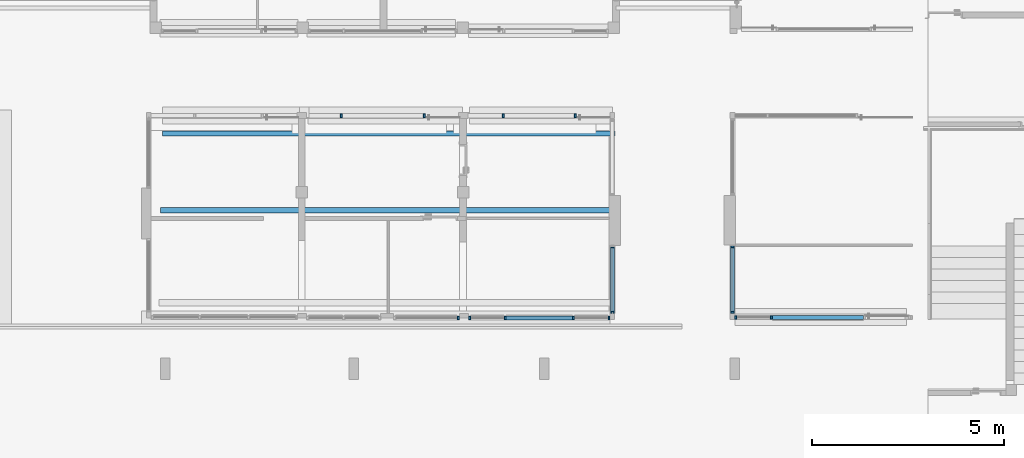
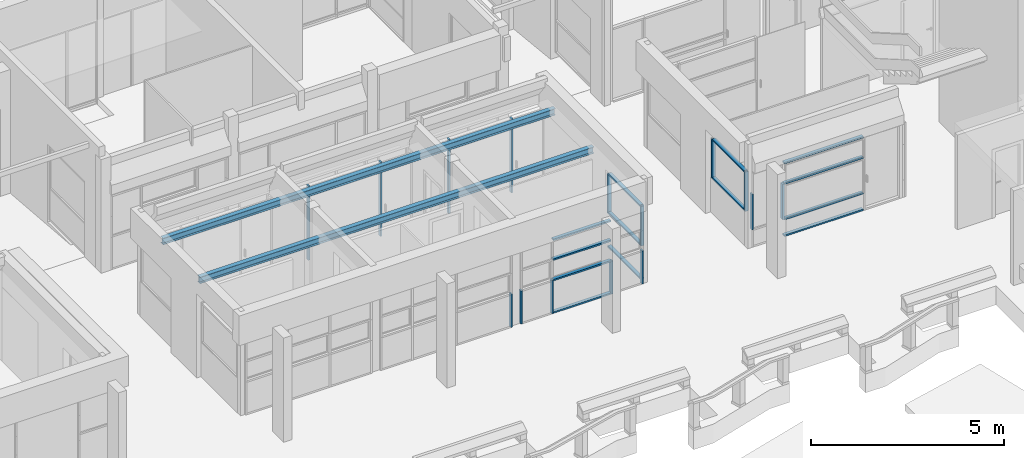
# One storey, part 11 of 117: 28 members, 2 beams, 7 elements without a shape of their own.
"""IFC4 building model written with IfcOpenShell, lengths in metres."""

from ifc_helpers import new_model, entity, si_unit, converted_unit, derived_unit, direction, frame, origin, place, context, subcontext, project, spatial, line, arc, indexed_curve, outline, extrude, source, transform, mapped, material, type_object, type_shapes, element, aggregate, save


model = new_model("IFC4")

# Units and contexts
model_context = context("Model", 3, precision=1e-05, world=origin(), true_north=direction((6.123031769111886e-17, 1.0)))
body_context = subcontext(model_context, "Body", "Model", "MODEL_VIEW")
ifc_project = project(units=[si_unit("LENGTHUNIT", "METRE"), si_unit("AREAUNIT", "SQUARE_METRE"), si_unit("VOLUMEUNIT", "CUBIC_METRE"), converted_unit("PLANEANGLEUNIT", "DEGREE", entity("IfcRatioMeasure", 0.017453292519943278), si_unit("PLANEANGLEUNIT", "RADIAN"), dimensions=[0, 0, 0, 0, 0, 0, 0]), si_unit("MASSUNIT", "GRAM", prefix="KILO"), derived_unit("MASSDENSITYUNIT", [(si_unit("MASSUNIT", "GRAM", prefix="KILO"), 1), (si_unit("LENGTHUNIT", "METRE"), -3)]), derived_unit("MOMENTOFINERTIAUNIT", [(si_unit("LENGTHUNIT", "METRE"), 4)]), si_unit("TIMEUNIT", "SECOND"), si_unit("FREQUENCYUNIT", "HERTZ"), si_unit("THERMODYNAMICTEMPERATUREUNIT", "DEGREE_CELSIUS"), derived_unit("THERMALTRANSMITTANCEUNIT", [(si_unit("MASSUNIT", "GRAM", prefix="KILO"), 1), (si_unit("THERMODYNAMICTEMPERATUREUNIT", "KELVIN"), -1), (si_unit("TIMEUNIT", "SECOND"), -3)]), derived_unit("VOLUMETRICFLOWRATEUNIT", [(si_unit("LENGTHUNIT", "METRE"), 3), (si_unit("TIMEUNIT", "SECOND"), -1)]), derived_unit("MASSFLOWRATEUNIT", [(si_unit("MASSUNIT", "GRAM", prefix="KILO"), 1), (si_unit("TIMEUNIT", "SECOND"), -1)]), derived_unit("ROTATIONALFREQUENCYUNIT", [(si_unit("TIMEUNIT", "SECOND"), -1)]), si_unit("ELECTRICCURRENTUNIT", "AMPERE"), si_unit("ELECTRICVOLTAGEUNIT", "VOLT"), si_unit("POWERUNIT", "WATT"), si_unit("FORCEUNIT", "NEWTON", prefix="KILO"), si_unit("ILLUMINANCEUNIT", "LUX"), si_unit("LUMINOUSFLUXUNIT", "LUMEN"), si_unit("LUMINOUSINTENSITYUNIT", "CANDELA"), derived_unit("USERDEFINED", [(si_unit("MASSUNIT", "GRAM", prefix="KILO"), -1), (si_unit("LENGTHUNIT", "METRE"), -2), (si_unit("TIMEUNIT", "SECOND"), 3), (si_unit("LUMINOUSFLUXUNIT", "LUMEN"), 1)]), derived_unit("SOUNDPOWERUNIT", [(si_unit("MASSUNIT", "GRAM", prefix="KILO"), 1), (si_unit("LENGTHUNIT", "METRE"), 2), (si_unit("TIMEUNIT", "SECOND"), -3)]), derived_unit("SOUNDPRESSUREUNIT", [(si_unit("MASSUNIT", "GRAM", prefix="KILO"), 1), (si_unit("LENGTHUNIT", "METRE"), -1), (si_unit("TIMEUNIT", "SECOND"), -2)]), derived_unit("LINEARVELOCITYUNIT", [(si_unit("LENGTHUNIT", "METRE"), 1), (si_unit("TIMEUNIT", "SECOND"), -1)]), si_unit("PRESSUREUNIT", "PASCAL"), derived_unit("USERDEFINED", [(si_unit("LENGTHUNIT", "METRE"), -2), (si_unit("MASSUNIT", "GRAM", prefix="KILO"), 1), (si_unit("TIMEUNIT", "SECOND"), -2)]), derived_unit("LINEARFORCEUNIT", [(si_unit("MASSUNIT", "GRAM", prefix="KILO"), 1), (si_unit("LENGTHUNIT", "METRE"), 1), (si_unit("TIMEUNIT", "SECOND"), -2), (si_unit("LENGTHUNIT", "METRE"), -1)]), derived_unit("PLANARFORCEUNIT", [(si_unit("MASSUNIT", "GRAM", prefix="KILO"), 1), (si_unit("LENGTHUNIT", "METRE"), 1), (si_unit("TIMEUNIT", "SECOND"), -2), (si_unit("LENGTHUNIT", "METRE"), -2)])], contexts=[model_context])

# Site, building, storey
site_placement = place(None, origin())
site = spatial("IfcSite", under=ifc_project, at=site_placement, Name="Superficie", CompositionType="ELEMENT")
building_placement = place(site_placement, origin())
building = spatial("IfcBuilding", under=site, at=building_placement, CompositionType="ELEMENT")
storey_placement = place(building_placement, origin())
storey = spatial("IfcBuildingStorey", under=building, at=storey_placement, Name="Nivel 0", CompositionType="ELEMENT", Elevation=0.0)

# Curtain wall, members
curtain_wall_type = type_object("IfcCurtainWallType", Name="Muro cortina:Muro cortina - simple", PredefinedType="NOTDEFINED")
curtain_wall_1_placement = place(storey_placement, origin())
curtain_wall_1 = element("IfcCurtainWall", 1, at=curtain_wall_1_placement, inside=storey, type_object=curtain_wall_type, Name="Muro cortina:Muro cortina - simple", ObjectType="Muro cortina:Muro cortina - simple", PredefinedType="NOTDEFINED")
ifc_material_1 = material(Name="<Unnamed>")
member_type_1 = type_object("IfcMemberType", Name="Montante rectangular:Montante rectangular - 5 x 10 cm", PredefinedType="MULLION", material=ifc_material_1)
shared_shape_1 = source(origin(), body_context, "Body", "SweptSolid", [
    extrude(outline(indexed_curve([(-0.05, -0.025), (0.05, -0.025), (0.05, 0.025), (-0.05, 0.025), (-0.05, -0.025)], self_intersect=False)), frame((0.0, 0.0, -1.2499999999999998), z_axis=(0.0, 0.0, 1.0), x_axis=(0.0, -1.0, 0.0)), (0.0, 0.0, 1.0), 1.2499999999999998),
])
type_shapes(member_type_1, [shared_shape_1])
member_1_placement = place(curtain_wall_1_placement, frame((12.786799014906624, 0.11582928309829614, 1.0750000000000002), z_axis=(0.0, 0.0, -1.0), x_axis=(0.0, -1.0, 0.0)))
member_1 = element("IfcMember", 2, at=member_1_placement, type_object=member_type_1, material=ifc_material_1, Name="Montante rectangular:Montante rectangular - 5 x 10 cm", ObjectType="Montante rectangular:Montante rectangular - 5 x 10 cm", PredefinedType="MULLION", context=body_context, shape_type="MappedRepresentation", body=[
    mapped(shared_shape_1, transform((0.0, 0.0, 0.0), scale=1.0)),
])
member_2_placement = place(curtain_wall_1_placement, frame((12.786799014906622, -1.5891707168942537, 1.0750000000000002), z_axis=(0.0, 0.0, -1.0), x_axis=(0.0, -1.0, 0.0)))
member_2 = element("IfcMember", 3, at=member_2_placement, type_object=member_type_1, material=ifc_material_1, Name="Montante rectangular:Montante rectangular - 5 x 10 cm", ObjectType="Montante rectangular:Montante rectangular - 5 x 10 cm", PredefinedType="MULLION", context=body_context, shape_type="MappedRepresentation", body=[
    mapped(shared_shape_1, transform((0.0, 0.0, 0.0), scale=1.0)),
])

curtain_wall_2_placement = place(storey_placement, origin())
curtain_wall_2 = element("IfcCurtainWall", 4, at=curtain_wall_2_placement, inside=storey, type_object=curtain_wall_type, Name="Muro cortina:Muro cortina - simple", ObjectType="Muro cortina:Muro cortina - simple", PredefinedType="NOTDEFINED")
member_3_placement = place(curtain_wall_2_placement, frame((15.906799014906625, 0.11582928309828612, 1.0750000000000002), z_axis=(0.0, 0.0, -1.0), x_axis=(0.0, -1.0, 0.0)))
member_3 = element("IfcMember", 5, at=member_3_placement, type_object=member_type_1, material=ifc_material_1, Name="Montante rectangular:Montante rectangular - 5 x 10 cm", ObjectType="Montante rectangular:Montante rectangular - 5 x 10 cm", PredefinedType="MULLION", context=body_context, shape_type="MappedRepresentation", body=[
    mapped(shared_shape_1, transform((0.0, 0.0, 0.0), scale=1.0)),
])
member_4_placement = place(curtain_wall_2_placement, frame((15.906799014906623, -1.5891707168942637, 1.0750000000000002), z_axis=(0.0, 0.0, -1.0), x_axis=(0.0, -1.0, 0.0)))
member_4 = element("IfcMember", 6, at=member_4_placement, type_object=member_type_1, material=ifc_material_1, Name="Montante rectangular:Montante rectangular - 5 x 10 cm", ObjectType="Montante rectangular:Montante rectangular - 5 x 10 cm", PredefinedType="MULLION", context=body_context, shape_type="MappedRepresentation", body=[
    mapped(shared_shape_1, transform((0.0, 0.0, 0.0), scale=1.0)),
])

# Member
member_type_2 = type_object("IfcMemberType", Name="Montante rectangular:Montante rectangular - 5 x 10 cm", PredefinedType="MULLION", material=ifc_material_1)
shared_shape_2 = source(origin(), body_context, "Body", "SweptSolid", [
    extrude(outline(indexed_curve([(-0.05, -0.025), (0.05, -0.025), (0.05, 0.025), (-0.05, 0.025), (-0.05, -0.025)], self_intersect=False)), frame((0.0, 0.0, -1.65499999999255), z_axis=(0.0, 0.0, 1.0), x_axis=(0.0, -1.0, 0.0)), (0.0, 0.0, 1.0), 1.65499999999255),
])
type_shapes(member_type_2, [shared_shape_2])
member_5_placement = place(curtain_wall_1_placement, frame((12.786799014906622, -1.5641707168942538, 1.1), z_axis=(0.0, -1.0, 0.0), x_axis=(0.0, 0.0, 1.0)))
member_5 = element("IfcMember", 7, at=member_5_placement, type_object=member_type_2, material=ifc_material_1, Name="Montante rectangular:Montante rectangular - 5 x 10 cm", ObjectType="Montante rectangular:Montante rectangular - 5 x 10 cm", PredefinedType="MULLION", context=body_context, shape_type="MappedRepresentation", body=[
    mapped(shared_shape_2, transform((0.0, 0.0, 0.0), scale=1.0)),
])

member_6_placement = place(curtain_wall_1_placement, frame((12.786799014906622, -1.5641707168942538, 2.3249999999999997), z_axis=(0.0, -1.0, 0.0), x_axis=(0.0, 0.0, 1.0)))
member_6 = element("IfcMember", 8, at=member_6_placement, type_object=member_type_2, material=ifc_material_1, Name="Montante rectangular:Montante rectangular - 5 x 10 cm", ObjectType="Montante rectangular:Montante rectangular - 5 x 10 cm", PredefinedType="MULLION", context=body_context, shape_type="MappedRepresentation", body=[
    mapped(shared_shape_2, transform((0.0, 0.0, 0.0), scale=1.0)),
])

member_7_placement = place(curtain_wall_2_placement, frame((15.906799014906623, -1.5641707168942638, 1.1), z_axis=(0.0, -1.0, 0.0), x_axis=(0.0, 0.0, 1.0)))
member_7 = element("IfcMember", 9, at=member_7_placement, type_object=member_type_2, material=ifc_material_1, Name="Montante rectangular:Montante rectangular - 5 x 10 cm", ObjectType="Montante rectangular:Montante rectangular - 5 x 10 cm", PredefinedType="MULLION", context=body_context, shape_type="MappedRepresentation", body=[
    mapped(shared_shape_2, transform((0.0, 0.0, 0.0), scale=1.0)),
])

member_8_placement = place(curtain_wall_2_placement, frame((15.906799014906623, -1.5641707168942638, 2.3249999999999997), z_axis=(0.0, -1.0, 0.0), x_axis=(0.0, 0.0, 1.0)))
member_8 = element("IfcMember", 10, at=member_8_placement, type_object=member_type_2, material=ifc_material_1, Name="Montante rectangular:Montante rectangular - 5 x 10 cm", ObjectType="Montante rectangular:Montante rectangular - 5 x 10 cm", PredefinedType="MULLION", context=body_context, shape_type="MappedRepresentation", body=[
    mapped(shared_shape_2, transform((0.0, 0.0, 0.0), scale=1.0)),
])

aggregate(curtain_wall_2, [member_3, member_7, member_4, member_8])

member_type_3 = type_object("IfcMemberType", Name="Montante rectangular:Montante rectangular - 5 x 10 cm", PredefinedType="MULLION", material=ifc_material_1)
shared_shape_3 = source(origin(), body_context, "Body", "SweptSolid", [
    extrude(outline(indexed_curve([(-0.05, -0.025), (0.05, -0.025), (0.05, 0.025), (-0.05, 0.025), (-0.05, -0.025)], self_intersect=False)), frame((-0.025, 0.0, -1.70499999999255), z_axis=(0.0, 0.0, 1.0), x_axis=(0.0, -1.0, 0.0)), (0.0, 0.0, 1.0), 1.70499999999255),
])
type_shapes(member_type_3, [shared_shape_3])
member_9_placement = place(curtain_wall_1_placement, frame((12.786799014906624, 0.1158292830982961, 0.0), z_axis=(0.0, 1.0, 0.0), x_axis=(0.0, 0.0, -1.0)))
member_9 = element("IfcMember", 11, at=member_9_placement, type_object=member_type_3, material=ifc_material_1, Name="Montante rectangular:Montante rectangular - 5 x 10 cm", ObjectType="Montante rectangular:Montante rectangular - 5 x 10 cm", PredefinedType="MULLION", context=body_context, shape_type="MappedRepresentation", body=[
    mapped(shared_shape_3, transform((0.0, 0.0, 0.0), scale=1.0)),
])

aggregate(curtain_wall_1, [member_1, member_5, member_2, member_6, member_9])

# Curtain wall, members
curtain_wall_3_placement = place(storey_placement, origin())
curtain_wall_3 = element("IfcCurtainWall", 12, at=curtain_wall_3_placement, inside=storey, type_object=curtain_wall_type, Name="Muro cortina:Muro cortina - simple", ObjectType="Muro cortina:Muro cortina - simple", PredefinedType="NOTDEFINED")
member_type_4 = type_object("IfcMemberType", Name="Montante rectangular:Montante rectangular - 5 x 10 cm", PredefinedType="MULLION", material=ifc_material_1)
shared_shape_4 = source(origin(), body_context, "Body", "SweptSolid", [
    extrude(outline(indexed_curve([(-0.05, -0.025), (0.05, -0.025), (0.05, 0.025), (-0.05, 0.025), (-0.05, -0.025)], self_intersect=False)), frame((0.0, 0.0, -2.35), z_axis=(0.0, 0.0, 1.0), x_axis=(0.0, -1.0, 0.0)), (0.0, 0.0, 1.0), 2.35),
])
type_shapes(member_type_4, [shared_shape_4])
member_10_placement = place(curtain_wall_3_placement, frame((11.821799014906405, 3.5257137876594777, 0.0), z_axis=(0.0, 0.0, -1.0), x_axis=(-1.0, 0.0, 0.0)))
member_10 = element("IfcMember", 13, at=member_10_placement, type_object=member_type_4, material=ifc_material_1, Name="Montante rectangular:Montante rectangular - 5 x 10 cm", ObjectType="Montante rectangular:Montante rectangular - 5 x 10 cm", PredefinedType="MULLION", context=body_context, shape_type="MappedRepresentation", body=[
    mapped(shared_shape_4, transform((0.0, 0.0, 0.0), scale=1.0)),
])
member_11_placement = place(curtain_wall_3_placement, frame((9.94179901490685, 3.5257137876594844, 0.0), z_axis=(0.0, 0.0, -1.0), x_axis=(-1.0, 0.0, 0.0)))
member_11 = element("IfcMember", 14, at=member_11_placement, type_object=member_type_4, material=ifc_material_1, Name="Montante rectangular:Montante rectangular - 5 x 10 cm", ObjectType="Montante rectangular:Montante rectangular - 5 x 10 cm", PredefinedType="MULLION", context=body_context, shape_type="MappedRepresentation", body=[
    mapped(shared_shape_4, transform((0.0, 0.0, 0.0), scale=1.0)),
])
aggregate(curtain_wall_3, [member_10, member_11])

curtain_wall_4_placement = place(storey_placement, origin())
curtain_wall_4 = element("IfcCurtainWall", 15, at=curtain_wall_4_placement, inside=storey, type_object=curtain_wall_type, Name="Muro cortina:Muro cortina - simple", ObjectType="Muro cortina:Muro cortina - simple", PredefinedType="NOTDEFINED")
member_12_placement = place(curtain_wall_4_placement, frame((7.891799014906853, 3.5257137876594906, 0.0), z_axis=(0.0, 0.0, -1.0), x_axis=(-1.0, 0.0, 0.0)))
member_12 = element("IfcMember", 16, at=member_12_placement, type_object=member_type_4, material=ifc_material_1, Name="Montante rectangular:Montante rectangular - 5 x 10 cm", ObjectType="Montante rectangular:Montante rectangular - 5 x 10 cm", PredefinedType="MULLION", context=body_context, shape_type="MappedRepresentation", body=[
    mapped(shared_shape_4, transform((0.0, 0.0, 0.0), scale=1.0)),
])
member_13_placement = place(curtain_wall_4_placement, frame((5.731799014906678, 3.5257137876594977, 0.0), z_axis=(0.0, 0.0, -1.0), x_axis=(-1.0, 0.0, 0.0)))
member_13 = element("IfcMember", 17, at=member_13_placement, type_object=member_type_4, material=ifc_material_1, Name="Montante rectangular:Montante rectangular - 5 x 10 cm", ObjectType="Montante rectangular:Montante rectangular - 5 x 10 cm", PredefinedType="MULLION", context=body_context, shape_type="MappedRepresentation", body=[
    mapped(shared_shape_4, transform((0.0, 0.0, 0.0), scale=1.0)),
])
aggregate(curtain_wall_4, [member_12, member_13])

# Beams
ifc_material_2 = material(Name="Metal - Acero - 345 MPa", Category="Metal")
beam_type_1 = type_object("IfcBeamType", Name="UB-Perfil universal:203x133x25UB", PredefinedType="BEAM", material=ifc_material_2)
shared_shape_5 = source(origin(), body_context, "Body", "SweptSolid", [
    extrude(outline(indexed_curve([(-0.10159999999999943, -0.06660000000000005), (-0.09380000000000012, -0.06660000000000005), (-0.09380000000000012, -0.010449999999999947), (-0.09157401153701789, -0.005075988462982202), (-0.08620000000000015, -0.002849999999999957), (0.08619999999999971, -0.0028499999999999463), (0.09157401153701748, -0.00507598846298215), (0.09379999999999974, -0.010449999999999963), (0.09379999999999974, -0.06660000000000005), (0.10160000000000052, -0.06660000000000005), (0.10160000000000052, 0.06660000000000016), (0.09379999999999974, 0.06660000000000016), (0.09379999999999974, 0.010450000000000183), (0.09157401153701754, 0.005075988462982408), (0.08619999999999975, 0.0028500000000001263), (-0.08620000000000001, 0.0028500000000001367), (-0.09157401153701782, 0.005075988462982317), (-0.09380000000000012, 0.010450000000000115), (-0.09380000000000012, 0.0665999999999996), (-0.10159999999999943, 0.0665999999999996)], segments=[line(1, 2, 3), arc(3, 4, 5), line(5, 6), arc(6, 7, 8), line(8, 9, 10, 11, 12, 13), arc(13, 14, 15), line(15, 16), arc(16, 17, 18), line(18, 19, 20, 1)], self_intersect=False)), frame((-5.88, 0.0, 0.0), z_axis=(1.0, 0.0, 0.0), x_axis=(0.0, 0.0, -1.0)), (0.0, 0.0, 1.0), 11.760000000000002),
])
type_shapes(beam_type_1, [shared_shape_5])
beam_1_placement = place(storey_placement, frame((6.966001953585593, 3.0657137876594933, 2.4984)))
element("IfcBeam", 18, at=beam_1_placement, inside=storey, type_object=beam_type_1, material=ifc_material_2, Name="UB-Perfil universal:203x133x25UB", ObjectType="UB-Perfil universal:203x133x25UB", PredefinedType="BEAM", context=body_context, shape_type="MappedRepresentation", body=[
    mapped(shared_shape_5, transform((0.0, 0.0, 0.0), scale=1.0)),
])
beam_type_2 = type_object("IfcBeamType", Name="UB-Perfil universal:203x133x25UB", PredefinedType="BEAM", material=ifc_material_2)
shared_shape_6 = source(origin(), body_context, "Body", "SweptSolid", [
    extrude(outline(indexed_curve([(-0.10159999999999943, -0.06660000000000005), (-0.09380000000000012, -0.06660000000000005), (-0.09380000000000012, -0.010449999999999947), (-0.09157401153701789, -0.005075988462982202), (-0.08620000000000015, -0.002849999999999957), (0.08619999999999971, -0.0028499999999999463), (0.09157401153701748, -0.00507598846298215), (0.09379999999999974, -0.010449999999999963), (0.09379999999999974, -0.06660000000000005), (0.10160000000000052, -0.06660000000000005), (0.10160000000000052, 0.06660000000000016), (0.09379999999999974, 0.06660000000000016), (0.09379999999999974, 0.010450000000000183), (0.09157401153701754, 0.005075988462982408), (0.08619999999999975, 0.0028500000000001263), (-0.08620000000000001, 0.0028500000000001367), (-0.09157401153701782, 0.005075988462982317), (-0.09380000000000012, 0.010450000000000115), (-0.09380000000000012, 0.0665999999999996), (-0.10159999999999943, 0.0665999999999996)], segments=[line(1, 2, 3), arc(3, 4, 5), line(5, 6), arc(6, 7, 8), line(8, 9, 10, 11, 12, 13), arc(13, 14, 15), line(15, 16), arc(16, 17, 18), line(18, 19, 20, 1)], self_intersect=False)), frame((-5.929132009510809, 0.0, 0.0), z_axis=(1.0, 0.0, 0.0), x_axis=(0.0, 0.0, -1.0)), (0.0, 0.0, 1.0), 11.809132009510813),
])
type_shapes(beam_type_2, [shared_shape_6])
beam_2_placement = place(storey_placement, frame((6.9660019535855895, 1.0657137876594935, 2.4984)))
element("IfcBeam", 19, at=beam_2_placement, inside=storey, type_object=beam_type_2, material=ifc_material_2, Name="UB-Perfil universal:203x133x25UB", ObjectType="UB-Perfil universal:203x133x25UB", PredefinedType="BEAM", context=body_context, shape_type="MappedRepresentation", body=[
    mapped(shared_shape_6, transform((0.0, 0.0, 0.0), scale=1.0)),
])

# Curtain wall, members
curtain_wall_5_placement = place(storey_placement, origin())
curtain_wall_5 = element("IfcCurtainWall", 20, at=curtain_wall_5_placement, inside=storey, type_object=curtain_wall_type, Name="Muro cortina:Muro cortina - simple", ObjectType="Muro cortina:Muro cortina - simple", PredefinedType="NOTDEFINED")
member_type_5 = type_object("IfcMemberType", Name="Montante rectangular:Montante rectangular - 5 x 10 cm", PredefinedType="MULLION", material=ifc_material_1)
shared_shape_7 = source(origin(), body_context, "Body", "SweptSolid", [
    extrude(outline(indexed_curve([(-0.05, -0.025), (0.05, -0.025), (0.05, 0.025), (-0.05, 0.025), (-0.05, -0.025)], self_intersect=False)), frame((-0.025, 0.0, -1.125), z_axis=(0.0, 0.0, 1.0), x_axis=(0.0, -1.0, 0.0)), (0.0, 0.0, 1.0), 1.125),
])
type_shapes(member_type_5, [shared_shape_7])
member_14_placement = place(curtain_wall_5_placement, frame((15.966799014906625, -1.7241707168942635, 0.55), z_axis=(0.0, 0.0, -1.0), x_axis=(-1.0, 0.0, 0.0)))
member_14 = element("IfcMember", 21, at=member_14_placement, type_object=member_type_5, material=ifc_material_1, Name="Montante rectangular:Montante rectangular - 5 x 10 cm", ObjectType="Montante rectangular:Montante rectangular - 5 x 10 cm", PredefinedType="MULLION", context=body_context, shape_type="MappedRepresentation", body=[
    mapped(shared_shape_7, transform((0.0, 0.0, 0.0), scale=1.0)),
])
member_type_6 = type_object("IfcMemberType", Name="Montante rectangular:Montante rectangular - 5 x 10 cm", PredefinedType="MULLION", material=ifc_material_1)
shared_shape_8 = source(origin(), body_context, "Body", "SweptSolid", [
    extrude(outline(indexed_curve([(-0.05, -0.025), (0.05, -0.025), (0.05, 0.025), (-0.05, 0.025), (-0.05, -0.025)], self_intersect=False)), frame((0.0, 0.0, -1.125), z_axis=(0.0, 0.0, 1.0), x_axis=(0.0, -1.0, 0.0)), (0.0, 0.0, 1.0), 1.125),
])
type_shapes(member_type_6, [shared_shape_8])
member_15_placement = place(curtain_wall_5_placement, frame((16.916799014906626, -1.7241707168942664, 0.55), z_axis=(0.0, 0.0, -1.0), x_axis=(-1.0, 0.0, 0.0)))
member_15 = element("IfcMember", 22, at=member_15_placement, type_object=member_type_6, material=ifc_material_1, Name="Montante rectangular:Montante rectangular - 5 x 10 cm", ObjectType="Montante rectangular:Montante rectangular - 5 x 10 cm", PredefinedType="MULLION", context=body_context, shape_type="MappedRepresentation", body=[
    mapped(shared_shape_8, transform((0.0, 0.0, 0.0), scale=1.0)),
])
member_type_7 = type_object("IfcMemberType", Name="Montante rectangular:Montante rectangular - 5 x 10 cm", PredefinedType="MULLION", material=ifc_material_1)
shared_shape_9 = source(origin(), body_context, "Body", "SweptSolid", [
    extrude(outline(indexed_curve([(-0.05, -0.025), (0.05, -0.025), (0.05, 0.025), (-0.05, 0.025), (-0.05, -0.025)], self_intersect=False)), frame((0.0, 0.0, -2.370000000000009), z_axis=(0.0, 0.0, 1.0), x_axis=(0.0, -1.0, 0.0)), (0.0, 0.0, 1.0), 2.3700000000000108),
])
type_shapes(member_type_7, [shared_shape_9])
member_16_placement = place(curtain_wall_5_placement, frame((16.941799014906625, -1.7241707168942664, 0.55), z_axis=(-1.0, 0.0, 0.0), x_axis=(0.0, 0.0, 1.0)))
member_16 = element("IfcMember", 23, at=member_16_placement, type_object=member_type_7, material=ifc_material_1, Name="Montante rectangular:Montante rectangular - 5 x 10 cm", ObjectType="Montante rectangular:Montante rectangular - 5 x 10 cm", PredefinedType="MULLION", context=body_context, shape_type="MappedRepresentation", body=[
    mapped(shared_shape_9, transform((0.0, 0.0, 0.0), scale=1.0)),
])
member_17_placement = place(curtain_wall_5_placement, frame((16.941799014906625, -1.7241707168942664, 1.675), z_axis=(-1.0, 0.0, 0.0), x_axis=(0.0, 0.0, 1.0)))
member_17 = element("IfcMember", 24, at=member_17_placement, type_object=member_type_7, material=ifc_material_1, Name="Montante rectangular:Montante rectangular - 5 x 10 cm", ObjectType="Montante rectangular:Montante rectangular - 5 x 10 cm", PredefinedType="MULLION", context=body_context, shape_type="MappedRepresentation", body=[
    mapped(shared_shape_9, transform((0.0, 0.0, 0.0), scale=1.0)),
])
member_type_8 = type_object("IfcMemberType", Name="Montante rectangular:Montante rectangular - 5 x 10 cm", PredefinedType="MULLION", material=ifc_material_1)
shared_shape_10 = source(origin(), body_context, "Body", "SweptSolid", [
    extrude(outline(indexed_curve([(-0.05, -0.025), (0.05, -0.025), (0.05, 0.025), (-0.05, 0.025), (-0.05, -0.025)], self_intersect=False)), frame((-0.025, 0.0, -2.370000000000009), z_axis=(0.0, 0.0, 1.0), x_axis=(0.0, -1.0, 0.0)), (0.0, 0.0, 1.0), 2.3700000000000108),
])
type_shapes(member_type_8, [shared_shape_10])
member_18_placement = place(curtain_wall_5_placement, frame((16.941799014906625, -1.7241707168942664, 2.35), z_axis=(-1.0, 0.0, 0.0), x_axis=(0.0, 0.0, 1.0)))
member_18 = element("IfcMember", 25, at=member_18_placement, type_object=member_type_8, material=ifc_material_1, Name="Montante rectangular:Montante rectangular - 5 x 10 cm", ObjectType="Montante rectangular:Montante rectangular - 5 x 10 cm", PredefinedType="MULLION", context=body_context, shape_type="MappedRepresentation", body=[
    mapped(shared_shape_10, transform((0.0, 0.0, 0.0), scale=1.0)),
])
member_type_9 = type_object("IfcMemberType", Name="Montante rectangular:Montante rectangular - 5 x 10 cm", PredefinedType="MULLION", material=ifc_material_1)
shared_shape_11 = source(origin(), body_context, "Body", "SweptSolid", [
    extrude(outline(indexed_curve([(-0.05, -0.025), (0.05, -0.025), (0.05, 0.025), (-0.05, 0.025), (-0.05, -0.025)], self_intersect=False)), frame((-0.025, 0.0, -2.3700000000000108), z_axis=(0.0, 0.0, 1.0), x_axis=(0.0, -1.0, 0.0)), (0.0, 0.0, 1.0), 2.3700000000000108),
])
type_shapes(member_type_9, [shared_shape_11])
member_19_placement = place(curtain_wall_5_placement, frame((19.311799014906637, -1.7241707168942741, 0.0), z_axis=(1.0, 0.0, 0.0), x_axis=(0.0, 0.0, -1.0)))
member_19 = element("IfcMember", 26, at=member_19_placement, type_object=member_type_9, material=ifc_material_1, Name="Montante rectangular:Montante rectangular - 5 x 10 cm", ObjectType="Montante rectangular:Montante rectangular - 5 x 10 cm", PredefinedType="MULLION", context=body_context, shape_type="MappedRepresentation", body=[
    mapped(shared_shape_11, transform((0.0, 0.0, 0.0), scale=1.0)),
])
aggregate(curtain_wall_5, [member_14, member_15, member_16, member_18, member_19, member_17])

# Curtain wall, member
curtain_wall_6_placement = place(storey_placement, origin())
curtain_wall_6 = element("IfcCurtainWall", 27, at=curtain_wall_6_placement, inside=storey, type_object=curtain_wall_type, Name="Muro cortina:Muro cortina - simple", ObjectType="Muro cortina:Muro cortina - simple", PredefinedType="NOTDEFINED")
member_type_10 = type_object("IfcMemberType", Name="Montante rectangular:Montante rectangular - 5 x 10 cm", PredefinedType="MULLION", material=ifc_material_1)
shared_shape_12 = source(origin(), body_context, "Body", "SweptSolid", [
    extrude(outline(indexed_curve([(-0.05, -0.025), (0.05, -0.025), (0.05, 0.025), (-0.05, 0.025), (-0.05, -0.025)], self_intersect=False)), frame((-0.025, 0.0, -1.0499999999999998), z_axis=(0.0, 0.0, 1.0), x_axis=(0.0, -1.0, 0.0)), (0.0, 0.0, 1.0), 1.0499999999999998),
])
type_shapes(member_type_10, [shared_shape_12])
member_20_placement = place(curtain_wall_6_placement, frame((8.796799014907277, -1.7341707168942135, 0.0), z_axis=(0.0, 0.0, -1.0), x_axis=(1.0, 0.0, 0.0)))
member_20 = element("IfcMember", 28, at=member_20_placement, type_object=member_type_10, material=ifc_material_1, Name="Montante rectangular:Montante rectangular - 5 x 10 cm", ObjectType="Montante rectangular:Montante rectangular - 5 x 10 cm", PredefinedType="MULLION", context=body_context, shape_type="MappedRepresentation", body=[
    mapped(shared_shape_12, transform((0.0, 0.0, 0.0), scale=1.0)),
])
aggregate(curtain_wall_6, [member_20])

# Curtain wall, members
curtain_wall_7_placement = place(storey_placement, origin())
curtain_wall_7 = element("IfcCurtainWall", 29, at=curtain_wall_7_placement, inside=storey, type_object=curtain_wall_type, Name="Muro cortina:Muro cortina - simple", ObjectType="Muro cortina:Muro cortina - simple", PredefinedType="NOTDEFINED")
member_21_placement = place(curtain_wall_7_placement, frame((12.721799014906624, -1.7341707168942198, 0.0), z_axis=(0.0, 0.0, -1.0), x_axis=(1.0, 0.0, 0.0)))
member_21 = element("IfcMember", 30, at=member_21_placement, type_object=member_type_10, material=ifc_material_1, Name="Montante rectangular:Montante rectangular - 5 x 10 cm", ObjectType="Montante rectangular:Montante rectangular - 5 x 10 cm", PredefinedType="MULLION", context=body_context, shape_type="MappedRepresentation", body=[
    mapped(shared_shape_12, transform((0.0, 0.0, 0.0), scale=1.0)),
])
member_type_11 = type_object("IfcMemberType", Name="Montante rectangular:Montante rectangular - 5 x 10 cm", PredefinedType="MULLION", material=ifc_material_1)
shared_shape_13 = source(origin(), body_context, "Body", "SweptSolid", [
    extrude(outline(indexed_curve([(-0.05, -0.025), (0.05, -0.025), (0.05, 0.025), (-0.05, 0.025), (-0.05, -0.025)], self_intersect=False)), frame((-0.025, 0.0, -1.05), z_axis=(0.0, 0.0, 1.0), x_axis=(0.0, -1.0, 0.0)), (0.0, 0.0, 1.0), 1.05),
])
type_shapes(member_type_11, [shared_shape_13])
member_22_placement = place(curtain_wall_7_placement, frame((9.046799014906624, -1.7341707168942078, 1.05), z_axis=(0.0, 0.0, 1.0), x_axis=(-1.0, 0.0, 0.0)))
member_22 = element("IfcMember", 31, at=member_22_placement, type_object=member_type_11, material=ifc_material_1, Name="Montante rectangular:Montante rectangular - 5 x 10 cm", ObjectType="Montante rectangular:Montante rectangular - 5 x 10 cm", PredefinedType="MULLION", context=body_context, shape_type="MappedRepresentation", body=[
    mapped(shared_shape_13, transform((0.0, 0.0, 0.0), scale=1.0)),
])
member_type_12 = type_object("IfcMemberType", Name="Montante rectangular:Montante rectangular - 5 x 10 cm", PredefinedType="MULLION", material=ifc_material_1)
shared_shape_14 = source(origin(), body_context, "Body", "SweptSolid", [
    extrude(outline(indexed_curve([(-0.05, -0.025), (0.05, -0.025), (0.05, 0.025), (-0.05, 0.025), (-0.05, -0.025)], self_intersect=False)), frame((0.0, 0.0, -1.0499999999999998), z_axis=(0.0, 0.0, 1.0), x_axis=(0.0, -1.0, 0.0)), (0.0, 0.0, 1.0), 1.0499999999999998),
])
type_shapes(member_type_12, [shared_shape_14])
member_23_placement = place(curtain_wall_7_placement, frame((9.996799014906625, -1.7341707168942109, 0.0), z_axis=(0.0, 0.0, -1.0), x_axis=(1.0, 0.0, 0.0)))
member_23 = element("IfcMember", 32, at=member_23_placement, type_object=member_type_12, material=ifc_material_1, Name="Montante rectangular:Montante rectangular - 5 x 10 cm", ObjectType="Montante rectangular:Montante rectangular - 5 x 10 cm", PredefinedType="MULLION", context=body_context, shape_type="MappedRepresentation", body=[
    mapped(shared_shape_14, transform((0.0, 0.0, 0.0), scale=1.0)),
])
member_24_placement = place(curtain_wall_7_placement, frame((11.771799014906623, -1.7341707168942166, 0.0), z_axis=(0.0, 0.0, -1.0), x_axis=(1.0, 0.0, 0.0)))
member_24 = element("IfcMember", 33, at=member_24_placement, type_object=member_type_12, material=ifc_material_1, Name="Montante rectangular:Montante rectangular - 5 x 10 cm", ObjectType="Montante rectangular:Montante rectangular - 5 x 10 cm", PredefinedType="MULLION", context=body_context, shape_type="MappedRepresentation", body=[
    mapped(shared_shape_14, transform((0.0, 0.0, 0.0), scale=1.0)),
])
member_type_13 = type_object("IfcMemberType", Name="Montante rectangular:Montante rectangular - 5 x 10 cm", PredefinedType="MULLION", material=ifc_material_1)
shared_shape_15 = source(origin(), body_context, "Body", "SweptSolid", [
    extrude(outline(indexed_curve([(-0.05, -0.025), (0.05, -0.025), (0.05, 0.025), (-0.05, 0.025), (-0.05, -0.025)], self_intersect=False)), frame((-0.025, 0.0, -1.7249999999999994), z_axis=(0.0, 0.0, 1.0), x_axis=(0.0, -1.0, 0.0)), (0.0, 0.0, 1.0), 1.7249999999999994),
])
type_shapes(member_type_13, [shared_shape_15])
member_25_placement = place(curtain_wall_7_placement, frame((11.746799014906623, -1.7341707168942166, 2.3499999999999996), z_axis=(1.0, 0.0, 0.0), x_axis=(0.0, 0.0, 1.0)))
member_25 = element("IfcMember", 34, at=member_25_placement, type_object=member_type_13, material=ifc_material_1, Name="Montante rectangular:Montante rectangular - 5 x 10 cm", ObjectType="Montante rectangular:Montante rectangular - 5 x 10 cm", PredefinedType="MULLION", context=body_context, shape_type="MappedRepresentation", body=[
    mapped(shared_shape_15, transform((0.0, 0.0, 0.0), scale=1.0)),
])
member_type_14 = type_object("IfcMemberType", Name="Montante rectangular:Montante rectangular - 5 x 10 cm", PredefinedType="MULLION", material=ifc_material_1)
shared_shape_16 = source(origin(), body_context, "Body", "SweptSolid", [
    extrude(outline(indexed_curve([(-0.05, -0.025), (0.05, -0.025), (0.05, 0.025), (-0.05, 0.025), (-0.05, -0.025)], self_intersect=False)), frame((-0.025, 0.0, -1.7249999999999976), z_axis=(0.0, 0.0, 1.0), x_axis=(0.0, -1.0, 0.0)), (0.0, 0.0, 1.0), 1.7249999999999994),
])
type_shapes(member_type_14, [shared_shape_16])
member_26_placement = place(curtain_wall_7_placement, frame((10.021799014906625, -1.7341707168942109, 0.0), z_axis=(-1.0, 0.0, 0.0), x_axis=(0.0, 0.0, -1.0)))
member_26 = element("IfcMember", 35, at=member_26_placement, type_object=member_type_14, material=ifc_material_1, Name="Montante rectangular:Montante rectangular - 5 x 10 cm", ObjectType="Montante rectangular:Montante rectangular - 5 x 10 cm", PredefinedType="MULLION", context=body_context, shape_type="MappedRepresentation", body=[
    mapped(shared_shape_16, transform((0.0, 0.0, 0.0), scale=1.0)),
])
member_type_15 = type_object("IfcMemberType", Name="Montante rectangular:Montante rectangular - 5 x 10 cm", PredefinedType="MULLION", material=ifc_material_1)
shared_shape_17 = source(origin(), body_context, "Body", "SweptSolid", [
    extrude(outline(indexed_curve([(-0.05, -0.025), (0.05, -0.025), (0.05, 0.025), (-0.05, 0.025), (-0.05, -0.025)], self_intersect=False)), frame((0.0, 0.0, -1.7249999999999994), z_axis=(0.0, 0.0, 1.0), x_axis=(0.0, -1.0, 0.0)), (0.0, 0.0, 1.0), 1.7249999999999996),
])
type_shapes(member_type_15, [shared_shape_17])
member_27_placement = place(curtain_wall_7_placement, frame((11.746799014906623, -1.7341707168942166, 1.05), z_axis=(1.0, 0.0, 0.0), x_axis=(0.0, 0.0, 1.0)))
member_27 = element("IfcMember", 36, at=member_27_placement, type_object=member_type_15, material=ifc_material_1, Name="Montante rectangular:Montante rectangular - 5 x 10 cm", ObjectType="Montante rectangular:Montante rectangular - 5 x 10 cm", PredefinedType="MULLION", context=body_context, shape_type="MappedRepresentation", body=[
    mapped(shared_shape_17, transform((0.0, 0.0, 0.0), scale=1.0)),
])
member_28_placement = place(curtain_wall_7_placement, frame((11.746799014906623, -1.7341707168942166, 1.7), z_axis=(1.0, 0.0, 0.0), x_axis=(0.0, 0.0, 1.0)))
member_28 = element("IfcMember", 37, at=member_28_placement, type_object=member_type_15, material=ifc_material_1, Name="Montante rectangular:Montante rectangular - 5 x 10 cm", ObjectType="Montante rectangular:Montante rectangular - 5 x 10 cm", PredefinedType="MULLION", context=body_context, shape_type="MappedRepresentation", body=[
    mapped(shared_shape_17, transform((0.0, 0.0, 0.0), scale=1.0)),
])
aggregate(curtain_wall_7, [member_21, member_25, member_26, member_22, member_23, member_24, member_27, member_28])

save(model, "model.ifc")
